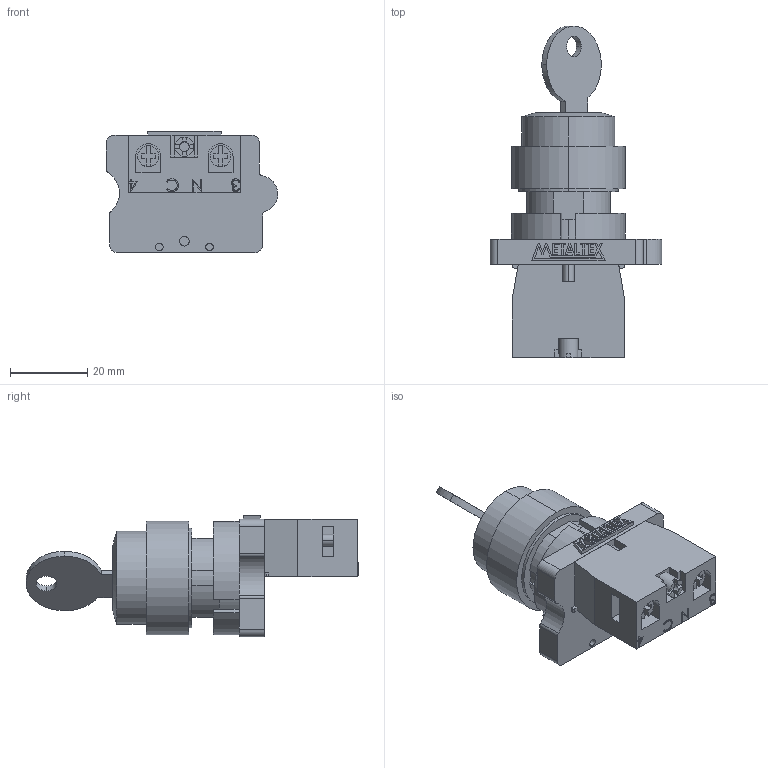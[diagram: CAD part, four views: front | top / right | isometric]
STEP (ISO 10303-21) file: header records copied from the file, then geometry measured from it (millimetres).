
FILE_DESCRIPTION (( 'STEP AP203' ), '1' );
FILE_NAME ('P20KNR2-B-1A.STEP', '2018-01-17T14:06:31', ( '' ), ( '' ), 'SwSTEP 2.0', 'SolidWorks 2012', '' );
FILE_SCHEMA (( 'CONFIG_CONTROL_DESIGN' ));
Length unit declared in the file: millimetre
Products named in the file (4): P20KNR2; M20-1A; METALTEX 18,98; P20KNR2-B-1A
Assembly tree (3 placements, depth 2):
  P20KNR2-B-1A
    P20KNR2
    M20-1A
    METALTEX 18,98
Bounding box: 44.44 x 86.05 x 31.5 mm (x, y, z)
Volume: 35719.6 mm3; surface area: 13680.6 mm2
Topology: 9 solids, 9 shells, 391 faces, 1015 edges, 670 vertices
Faces by surface type: plane 274, cylinder 86, bspline 23, cone 4, torus 4
Entity records: 13541 total; most frequent: CARTESIAN_POINT 3485, ORIENTED_EDGE 2030, DIRECTION 1925, EDGE_CURVE 1015, VECTOR 753, LINE 753, VERTEX_POINT 670, AXIS2_PLACEMENT_3D 586
